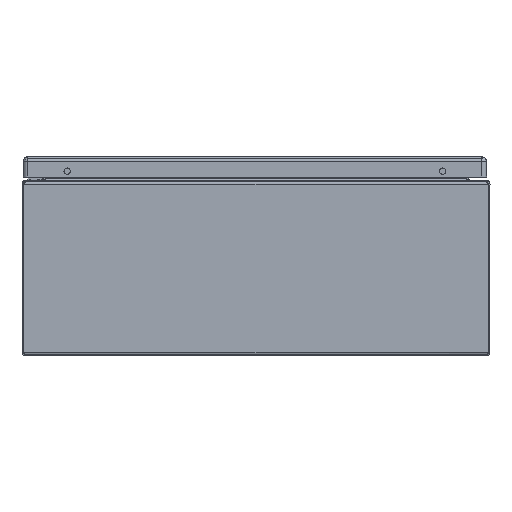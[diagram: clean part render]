
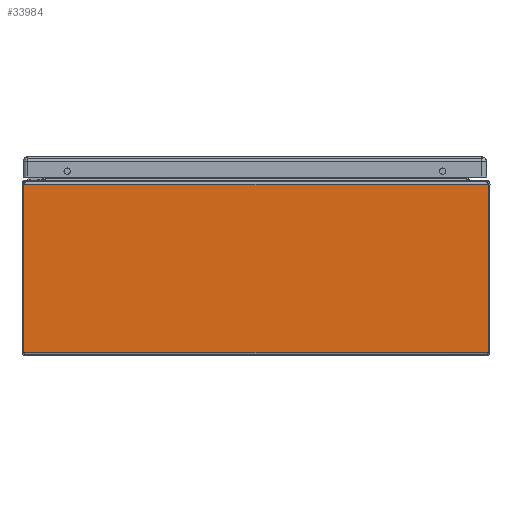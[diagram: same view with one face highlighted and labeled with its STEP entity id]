
A CAD part, front view. The second image highlights one B-rep face of the part: STEP entity #33984.
In plain terms, the highlighted planar face has unit normal (0, -1, 0).
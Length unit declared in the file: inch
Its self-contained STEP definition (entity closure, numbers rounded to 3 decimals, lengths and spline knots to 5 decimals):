
#1022 = DIRECTION ( 'NONE',  ( 0., 0., -1. ) ) ;
#1023 = DIRECTION ( 'NONE',  ( 0., -1., 0. ) ) ;
#1030 = PLANE ( 'NONE',  #14508 ) ;
#1042 = CARTESIAN_POINT ( 'NONE',  ( -158., -15., 5.855 ) ) ;
#4301 = VECTOR ( 'NONE', #13281, 39.37008 ) ;
#4310 = LINE ( 'NONE', #13282, #4301 ) ;
#4432 = LINE ( 'NONE', #12853, #4436 ) ;
#4436 = VECTOR ( 'NONE', #12850, 39.37008 ) ;
#4448 = LINE ( 'NONE', #12502, #4454 ) ;
#4454 = VECTOR ( 'NONE', #12488, 39.37008 ) ;
#4584 = VECTOR ( 'NONE', #12785, 39.37008 ) ;
#4590 = LINE ( 'NONE', #12799, #4584 ) ;
#10251 = FACE_OUTER_BOUND ( 'NONE', #20673, .T. ) ;
#12488 = DIRECTION ( 'NONE',  ( 0., 0., 1. ) ) ;
#12502 = CARTESIAN_POINT ( 'NONE',  ( 7.93793, -15., 5.855 ) ) ;
#12785 = DIRECTION ( 'NONE',  ( 1., 0., 0. ) ) ;
#12799 = CARTESIAN_POINT ( 'NONE',  ( -158., -15., 0.106 ) ) ;
#12850 = DIRECTION ( 'NONE',  ( 1., 0., 0. ) ) ;
#12853 = CARTESIAN_POINT ( 'NONE',  ( -158., -15., 5.855 ) ) ;
#13281 = DIRECTION ( 'NONE',  ( 0., 0., -1. ) ) ;
#13282 = CARTESIAN_POINT ( 'NONE',  ( -7.93793, -15., 5.855 ) ) ;
#13673 = CARTESIAN_POINT ( 'NONE',  ( -7.93793, -15., 5.855 ) ) ;
#13698 = CARTESIAN_POINT ( 'NONE',  ( 7.93793, -15., 0.106 ) ) ;
#14508 = AXIS2_PLACEMENT_3D ( 'NONE', #1042, #1023, #1022 ) ;
#16764 = CARTESIAN_POINT ( 'NONE',  ( -7.93793, -15., 0.106 ) ) ;
#16781 = CARTESIAN_POINT ( 'NONE',  ( 7.93793, -15., 5.855 ) ) ;
#18292 = ORIENTED_EDGE ( 'NONE', *, *, #32312, .T. ) ;
#18293 = ORIENTED_EDGE ( 'NONE', *, *, #32300, .F. ) ;
#18294 = ORIENTED_EDGE ( 'NONE', *, *, #32219, .T. ) ;
#18295 = ORIENTED_EDGE ( 'NONE', *, *, #32412, .T. ) ;
#20673 = EDGE_LOOP ( 'NONE', ( #18292, #18293, #18294, #18295 ) ) ;
#30311 = VERTEX_POINT ( 'NONE', #16781 ) ;
#30332 = VERTEX_POINT ( 'NONE', #16764 ) ;
#30468 = VERTEX_POINT ( 'NONE', #13673 ) ;
#31517 = VERTEX_POINT ( 'NONE', #13698 ) ;
#32219 = EDGE_CURVE ( 'NONE', #30468, #30332, #4310, .T. ) ;
#32300 = EDGE_CURVE ( 'NONE', #30468, #30311, #4432, .T. ) ;
#32312 = EDGE_CURVE ( 'NONE', #31517, #30311, #4448, .T. ) ;
#32412 = EDGE_CURVE ( 'NONE', #30332, #31517, #4590, .T. ) ;
#33984 = ADVANCED_FACE ( 'NONE', ( #10251 ), #1030, .T. ) ;
